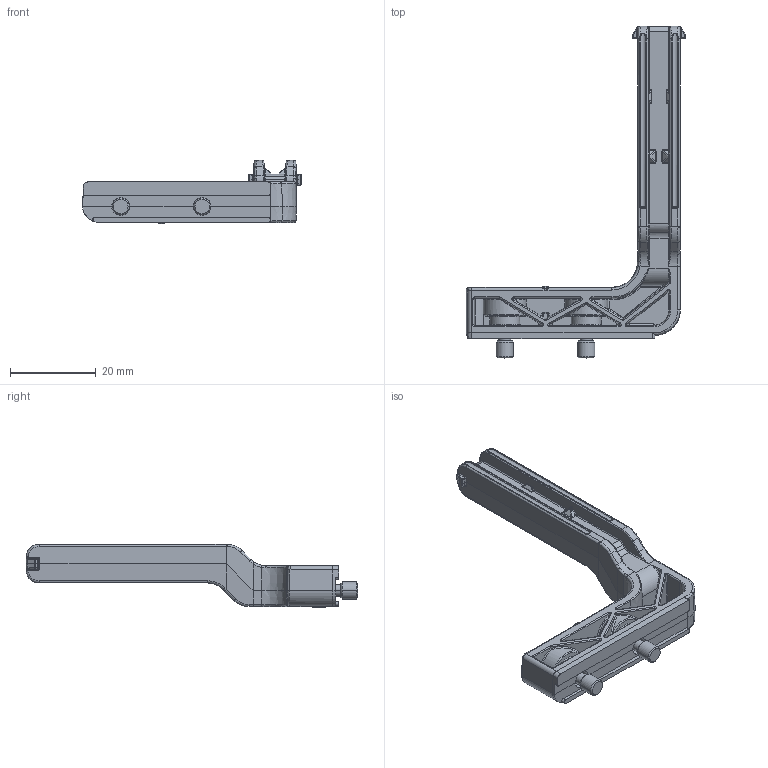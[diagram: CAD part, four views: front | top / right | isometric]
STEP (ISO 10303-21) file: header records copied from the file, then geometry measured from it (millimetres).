
FILE_DESCRIPTION (( 'STEP AP203' ), '1' );
FILE_NAME ('00030517 - PLASTIC FINGER SHORT NARROW WITH CAPTIVE SCREWS.step', '2013-04-05T16:25:10', ( '' ), ( '' ), 'SwSTEP 2.0', 'SolidWorks 2012', '' );
FILE_SCHEMA (( 'CONFIG_CONTROL_DESIGN' ));
Length unit declared in the file: millimetre
Products named in the file (1): 00030517 - PLASTIC FINGER SHORT NARROW WITH CAPTIVE SCREWS
Bounding box: 51.15 x 77.5 x 14.75 mm (x, y, z)
Surface area: 7056.4 mm2 (no closed solid volume)
Topology: 0 solids, 5 shells, 727 faces, 1892 edges, 1098 vertices
Faces by surface type: cylinder 300, bspline 224, plane 141, sphere 26, cone 22, torus 14
Entity records: 26818 total; most frequent: CARTESIAN_POINT 11615, ORIENTED_EDGE 3433, DIRECTION 2774, EDGE_CURVE 1866, VERTEX_POINT 1098, AXIS2_PLACEMENT_3D 1028, EDGE_LOOP 739, FACE_OUTER_BOUND 727
